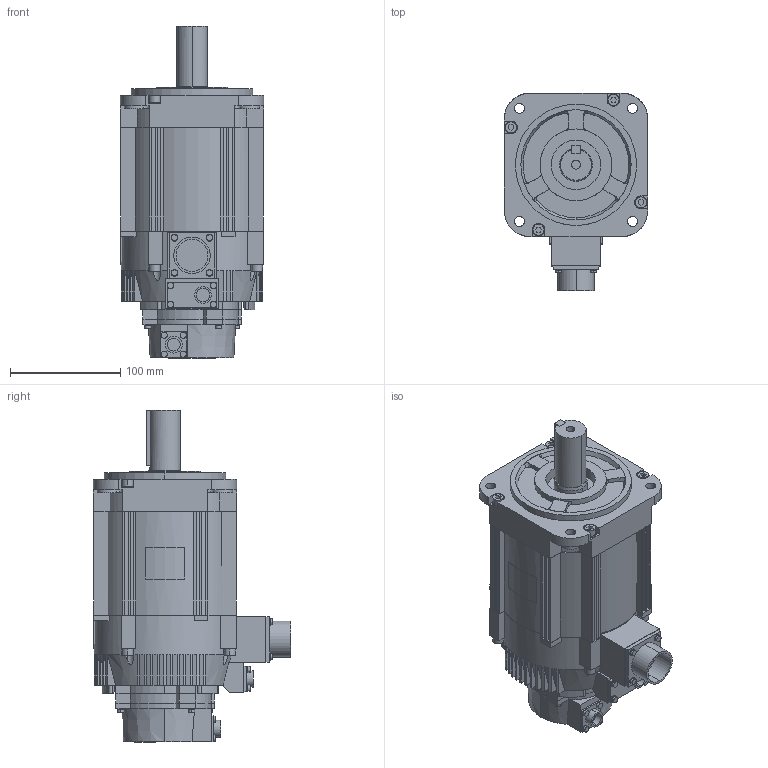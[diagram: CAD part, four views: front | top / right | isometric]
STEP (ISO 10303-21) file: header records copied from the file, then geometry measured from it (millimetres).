
FILE_DESCRIPTION (( 'STEP AP203' ), '1' );
FILE_NAME ('sgm7a_30a6a6c.STEP', '2016-11-12T04:47:29', ( '匠エンジニアリング山之内' ), ( 'TAKUMI-Engniaring' ), 'SwSTEP 2.0', 'SolidWorks 2006303', '' );
FILE_SCHEMA (( 'CONFIG_CONTROL_DESIGN' ));
Length unit declared in the file: millimetre
Products named in the file (3): sgm7a_30a6a6c_base; sgm7a_30a6a6c_key; sgm7a_30a6a6c
Assembly tree (2 placements, depth 2):
  sgm7a_30a6a6c
    sgm7a_30a6a6c_base
    sgm7a_30a6a6c_key
Bounding box: 130 x 179 x 301.1 mm (x, y, z)
Volume: 2967354.8 mm3; surface area: 196355.4 mm2
Topology: 2 solids, 2 shells, 832 faces, 2162 edges, 1424 vertices
Faces by surface type: plane 535, cylinder 245, cone 46, bspline 6
Entity records: 26412 total; most frequent: CARTESIAN_POINT 5262, DIRECTION 4384, ORIENTED_EDGE 4324, EDGE_CURVE 2162, AXIS2_PLACEMENT_3D 1505, VERTEX_POINT 1424, VECTOR 1374, LINE 1374
